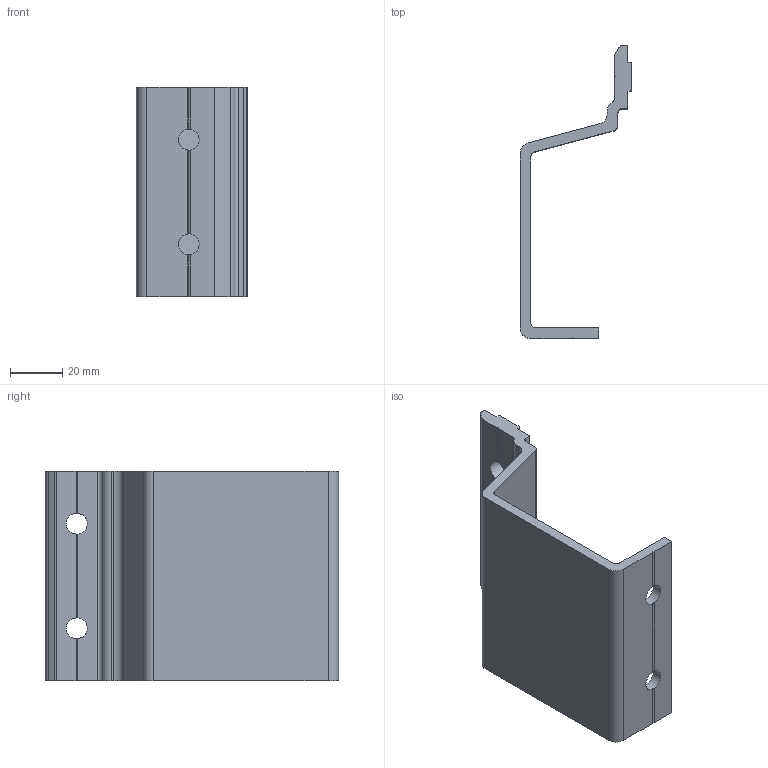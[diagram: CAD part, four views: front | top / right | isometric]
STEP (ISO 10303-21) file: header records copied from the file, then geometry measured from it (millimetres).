
FILE_DESCRIPTION((''),'2;1');
FILE_NAME('X:\Ritarkiv\STEP-Carryline Standarddelar\100-1240.stp','2009-05-11T13:41:48',('marcus'),(''),'Autodesk Inventor 2009','Autodesk Inventor 2009','');
FILE_SCHEMA(('AUTOMOTIVE_DESIGN { 1 0 10303 214 1 1 1 1 }'));
Length unit declared in the file: millimetre
Products named in the file (1): 100-1240
Bounding box: 42.5 x 112 x 80 mm (x, y, z)
Volume: 54435.3 mm3; surface area: 28370.8 mm2
Topology: 1 solids, 1 shells, 51 faces, 159 edges, 106 vertices
Faces by surface type: plane 34, cylinder 13, bspline 4
Entity records: 1825 total; most frequent: CARTESIAN_POINT 373, ORIENTED_EDGE 302, DIRECTION 301, EDGE_CURVE 151, AXIS2_PLACEMENT_3D 102, VERTEX_POINT 102, VECTOR 97, LINE 97
